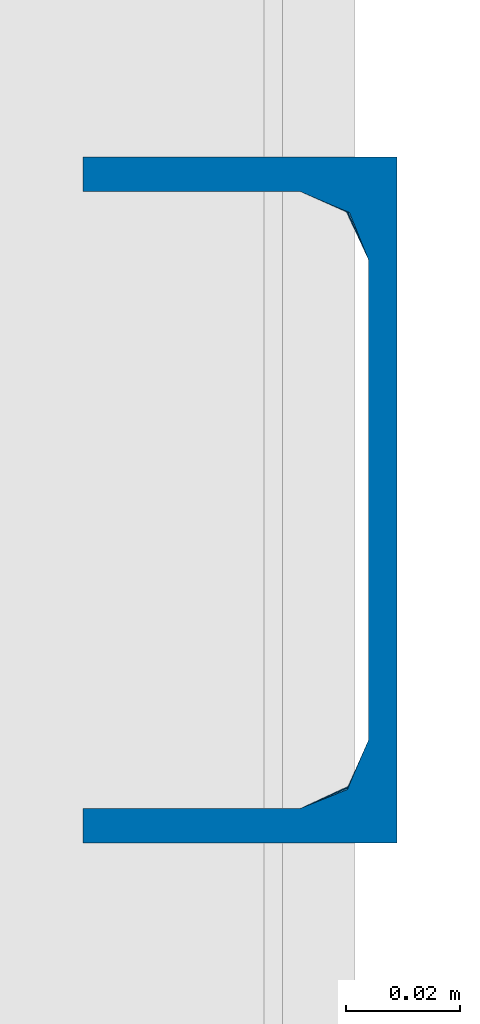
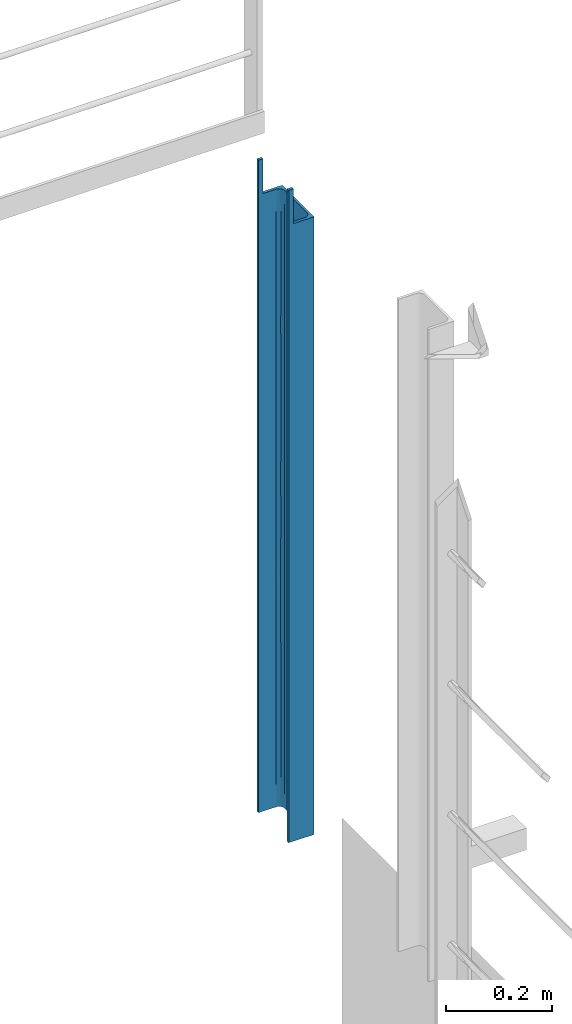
# One storey, part 6 of 10: 1 column.
"""IFC2X3 building model written with IfcOpenShell, lengths in metres."""

from ifc_helpers import new_model, entity, si_unit, converted_unit, derived_unit, direction, frame, origin, place, context, subcontext, project, spatial, faceted_brep, source, transform, mapped, material, type_object, type_shapes, element, save


model = new_model("IFC2X3")

# Units and contexts
model_context = context("Model", 3, precision=1e-05, world=origin(), true_north=direction((6.12303176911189e-17, 1.0)))
body_context = subcontext(model_context, "Body", "Model", "MODEL_VIEW")
ifc_project = project(units=[si_unit("LENGTHUNIT", "METRE"), si_unit("AREAUNIT", "SQUARE_METRE"), si_unit("VOLUMEUNIT", "CUBIC_METRE"), converted_unit("PLANEANGLEUNIT", "DEGREE", entity("IfcRatioMeasure", 0.0174532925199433), si_unit("PLANEANGLEUNIT", "RADIAN"), dimensions=[0, 0, 0, 0, 0, 0, 0]), si_unit("MASSUNIT", "GRAM", prefix="KILO"), derived_unit("MASSDENSITYUNIT", [(si_unit("MASSUNIT", "GRAM", prefix="KILO"), 1), (si_unit("LENGTHUNIT", "METRE"), -3)]), derived_unit("MOMENTOFINERTIAUNIT", [(si_unit("LENGTHUNIT", "METRE"), 4)]), si_unit("TIMEUNIT", "SECOND"), si_unit("FREQUENCYUNIT", "HERTZ"), si_unit("THERMODYNAMICTEMPERATUREUNIT", "DEGREE_CELSIUS"), derived_unit("THERMALTRANSMITTANCEUNIT", [(si_unit("MASSUNIT", "GRAM", prefix="KILO"), 1), (si_unit("THERMODYNAMICTEMPERATUREUNIT", "KELVIN"), -1), (si_unit("TIMEUNIT", "SECOND"), -3)]), derived_unit("VOLUMETRICFLOWRATEUNIT", [(si_unit("LENGTHUNIT", "METRE"), 3), (si_unit("TIMEUNIT", "SECOND"), -1)]), si_unit("ELECTRICCURRENTUNIT", "AMPERE"), si_unit("ELECTRICVOLTAGEUNIT", "VOLT"), si_unit("POWERUNIT", "WATT"), si_unit("FORCEUNIT", "NEWTON", prefix="KILO"), si_unit("ILLUMINANCEUNIT", "LUX"), si_unit("LUMINOUSFLUXUNIT", "LUMEN"), si_unit("LUMINOUSINTENSITYUNIT", "CANDELA"), derived_unit("USERDEFINED", [(si_unit("MASSUNIT", "GRAM", prefix="KILO"), -1), (si_unit("LENGTHUNIT", "METRE"), -2), (si_unit("TIMEUNIT", "SECOND"), 3), (si_unit("LUMINOUSFLUXUNIT", "LUMEN"), 1)]), derived_unit("LINEARVELOCITYUNIT", [(si_unit("LENGTHUNIT", "METRE"), 1), (si_unit("TIMEUNIT", "SECOND"), -1)]), si_unit("PRESSUREUNIT", "PASCAL"), derived_unit("USERDEFINED", [(si_unit("LENGTHUNIT", "METRE"), -2), (si_unit("MASSUNIT", "GRAM", prefix="KILO"), 1), (si_unit("TIMEUNIT", "SECOND"), -2)]), derived_unit("LINEARFORCEUNIT", [(si_unit("MASSUNIT", "GRAM", prefix="KILO"), 1), (si_unit("LENGTHUNIT", "METRE"), 1), (si_unit("TIMEUNIT", "SECOND"), -2), (si_unit("LENGTHUNIT", "METRE"), -1)]), derived_unit("PLANARFORCEUNIT", [(si_unit("MASSUNIT", "GRAM", prefix="KILO"), 1), (si_unit("LENGTHUNIT", "METRE"), 1), (si_unit("TIMEUNIT", "SECOND"), -2), (si_unit("LENGTHUNIT", "METRE"), -2)])], contexts=[model_context])

# Site, building, storey
site_placement = place(None, origin())
site = spatial("IfcSite", under=ifc_project, at=site_placement, Name="Superficie", CompositionType="ELEMENT")
building_placement = place(site_placement, origin())
building = spatial("IfcBuilding", under=site, at=building_placement, Name="Telegestiones", CompositionType="ELEMENT")
storey_placement = place(building_placement, frame((0.0, 0.0, 13.23)))
storey = spatial("IfcBuildingStorey", under=building, at=storey_placement, Name="Nivel 3_SUP", CompositionType="ELEMENT", Elevation=13.23)

# Column
ifc_material = material(Name="Metal - Acero - 345 MPa")
column_type = type_object("IfcColumnType", Name="UPE - Canales de ala paralela - Pilar:UPE 120", PredefinedType="COLUMN", material=ifc_material)
shared_shape = source(origin(), body_context, "Body", "Brep", [
    faceted_brep([(0.0550000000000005, 0.120000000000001, 0.0), (0.0550000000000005, 0.0, 0.0), (0.0, 0.0, 0.0), (0.0, 0.00599999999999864, 0.0), (0.038, 0.00599999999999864, 0.0), (0.0411058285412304, 0.0064088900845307, 0.0), (0.0440000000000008, 0.00760769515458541, 0.0), (0.0464852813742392, 0.00951471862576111, 0.0), (0.0483923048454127, 0.0119999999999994, 0.0), (0.0495911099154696, 0.0148941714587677, 0.0), (0.0500000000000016, 0.0179999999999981, 0.0), (0.0500000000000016, 0.101999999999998, 0.0), (0.0495911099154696, 0.105105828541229, 0.0), (0.0483923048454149, 0.107999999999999, 0.0), (0.0464852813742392, 0.110485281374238, 0.0), (0.0440000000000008, 0.112392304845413, 0.0), (0.0411058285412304, 0.113591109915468, 0.0), (0.038, 0.114, 0.0), (0.0, 0.114, 0.0), (0.0, 0.120000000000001, 0.0), (0.0, 0.0, 1.5), (0.0, 0.00599999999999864, 1.5), (0.0, 0.113999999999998, 1.5), (0.0, 0.119999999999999, 1.5), (0.00999999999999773, 0.0, 1.5), (0.00999999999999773, 0.00599999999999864, 1.5), (0.00999999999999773, 0.113999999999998, 1.5), (0.00999999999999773, 0.119999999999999, 1.5), (0.00999999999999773, 0.0, 1.41999999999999), (0.0550000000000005, 0.0, 1.41999999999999), (0.00999999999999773, 0.00599999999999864, 1.41999999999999), (0.038, 0.00599999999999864, 1.41999999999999), (0.038, 0.00599999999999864, 1.35952190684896), (0.038, 0.00599999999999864, 1.29904381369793), (0.038, 0.00599999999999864, 1.24250000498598), (0.038, 0.00599999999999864, 1.153749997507), (0.038, 0.00599999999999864, 1.06499999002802), (0.038, 0.00599999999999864, 0.976249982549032), (0.038, 0.00599999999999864, 0.887499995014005), (0.038, 0.00599999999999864, 0.798750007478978), (0.038, 0.00599999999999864, 0.709999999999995), (0.038, 0.00599999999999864, 0.621249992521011), (0.038, 0.00599999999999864, 0.532500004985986), (0.038, 0.00599999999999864, 0.443750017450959), (0.038, 0.00599999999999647, 0.355000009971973), (0.038, 0.00599999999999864, 0.241912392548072), (0.038, 0.00599999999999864, 0.181434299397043), (0.038, 0.0060000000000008, 0.120956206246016), (0.0379999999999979, 0.00599999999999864, 0.0604781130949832), (0.0499999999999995, 0.0179999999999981, 1.35952189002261), (0.0495911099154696, 0.0148941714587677, 1.41999999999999), (0.0499999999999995, 0.0179999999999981, 1.41999999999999), (0.0499999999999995, 0.0179999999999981, 0.0604781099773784), (0.0499999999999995, 0.0179999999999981, 0.452350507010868), (0.0467897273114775, 0.00983050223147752, 0.399375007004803), (0.0467877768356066, 0.00982840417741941, 0.464473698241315), (0.0464852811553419, 0.00951471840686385, 0.0907171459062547), (0.0464852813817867, 0.00951471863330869, 1.35258097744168), (0.0464852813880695, 0.00951471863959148, 1.27077190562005), (0.0462812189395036, 0.00931544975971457, 0.32983495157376), (0.0464852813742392, 0.00951471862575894, 1.41999999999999), (0.0440000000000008, 0.00760769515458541, 1.41999999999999), (0.0499999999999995, 0.0179999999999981, 0.339262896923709), (0.0466029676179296, 0.00963406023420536, 0.244207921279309), (0.0470720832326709, 0.0101452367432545, 0.754375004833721), (0.0462857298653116, 0.00931975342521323, 0.685213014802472), (0.0462547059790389, 0.00929024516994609, 1.17853746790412), (0.0467049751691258, 0.00974025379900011, 0.60354571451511), (0.0471640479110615, 0.0102527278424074, 0.529447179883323), (0.0411058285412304, 0.00640889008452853, 1.41999999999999), (0.0463911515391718, 0.00942162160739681, 0.91443329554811), (0.0499999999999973, 0.0179999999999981, 0.875697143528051), (0.0460330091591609, 0.00908536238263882, 0.843125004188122), (0.0462945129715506, 0.00932814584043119, 0.175985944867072), (0.0499999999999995, 0.0179999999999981, 0.120956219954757), (0.0462837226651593, 0.00931783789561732, 1.02689238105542), (0.0499999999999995, 0.0179999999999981, 0.694262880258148), (0.0483923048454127, 0.0119999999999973, 1.41999999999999), (0.0499999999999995, 0.0179999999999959, 1.23856567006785), (0.0500000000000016, 0.0179999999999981, 1.17808762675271), (0.0499999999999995, 0.0179999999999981, 1.11760958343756), (0.0499999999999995, 0.0179999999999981, 1.29904378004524), (0.0499999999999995, 0.0179999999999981, 0.226175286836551), (0.0499999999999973, 0.0179999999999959, 0.996653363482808), (0.0467622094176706, 0.00980099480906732, 1.10937500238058), (0.0499999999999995, 0.0179999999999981, 0.754740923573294), (0.0500000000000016, 0.0180000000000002, 0.815219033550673), (0.0499999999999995, 0.0180000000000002, 0.93617525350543), (0.0499999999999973, 0.0179999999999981, 1.05713147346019), (0.0499999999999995, 0.0179999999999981, 0.633784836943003), (0.0499999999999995, 0.0179999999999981, 0.573306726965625), (0.0499999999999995, 0.0179999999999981, 0.512828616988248), (0.0499999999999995, 0.101999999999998, 1.41999999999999), (0.0499999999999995, 0.101999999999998, 1.35952191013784), (0.0499999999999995, 0.101999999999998, 1.2990438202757), (0.0499999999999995, 0.101999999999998, 1.24250000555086), (0.0499999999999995, 0.101999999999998, 1.15375000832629), (0.0499999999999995, 0.101999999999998, 1.06500001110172), (0.0499999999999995, 0.101999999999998, 0.976250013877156), (0.0499999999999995, 0.101999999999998, 0.887500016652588), (0.0499999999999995, 0.101999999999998, 0.798749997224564), (0.0499999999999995, 0.101999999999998, 0.709999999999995), (0.0499999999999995, 0.101999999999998, 0.621250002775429), (0.0499999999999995, 0.101999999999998, 0.532499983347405), (0.0499999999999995, 0.101999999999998, 0.443749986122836), (0.0499999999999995, 0.101999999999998, 0.354999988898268), (0.0500000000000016, 0.101999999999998, 0.241912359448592), (0.0500000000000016, 0.101999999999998, 0.181434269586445), (0.0499999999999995, 0.101999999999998, 0.120956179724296), (0.0499999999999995, 0.101999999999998, 0.0604780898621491), (0.0461694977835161, 0.110789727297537, 0.399375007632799), (0.0466845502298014, 0.110281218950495, 0.32983495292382), (0.0464852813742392, 0.110485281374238, 1.41999999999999), (0.0464852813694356, 0.110485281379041, 1.35258097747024), (0.0483923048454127, 0.107999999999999, 1.41999999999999), (0.0464852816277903, 0.110485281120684, 0.0907171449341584), (0.0464852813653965, 0.11048528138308, 1.27077190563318), (0.038, 0.113999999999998, 1.23856573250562), (0.0467097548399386, 0.110254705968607, 1.17853746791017), (0.0380000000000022, 0.114, 1.3595219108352), (0.0411058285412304, 0.113591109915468, 1.41999999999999), (0.038, 0.113999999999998, 1.41999999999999), (0.038, 0.113999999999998, 0.0604780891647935), (0.038, 0.113999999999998, 0.452350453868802), (0.0461715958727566, 0.110787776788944, 0.464473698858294), (0.038, 0.113999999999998, 0.339262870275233), (0.0463659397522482, 0.110602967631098, 0.244207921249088), (0.0462597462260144, 0.110704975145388, 0.603545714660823), (0.0457472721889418, 0.111164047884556, 0.529447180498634), (0.0469146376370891, 0.110033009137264, 0.8431250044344), (0.0465783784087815, 0.110391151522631, 0.914433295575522), (0.0458547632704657, 0.111072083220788, 0.754375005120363), (0.0466802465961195, 0.110285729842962, 0.685213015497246), (0.0495911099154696, 0.105105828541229, 1.41999999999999), (0.038, 0.113999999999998, 0.875697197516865), (0.0466718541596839, 0.110294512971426, 0.175985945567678), (0.038, 0.113999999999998, 0.694262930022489), (0.038, 0.113999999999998, 0.120956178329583), (0.0440000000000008, 0.112392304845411, 1.41999999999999), (0.0466821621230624, 0.110283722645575, 1.02689238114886), (0.038, 0.113999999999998, 1.17808764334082), (0.0380000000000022, 0.113999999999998, 1.11760955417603), (0.038, 0.113999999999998, 1.29904382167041), (0.038, 0.113999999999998, 0.22617516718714), (0.038, 0.114, 0.996653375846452), (0.0461990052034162, 0.110762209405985, 1.1093750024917), (0.038, 0.113999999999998, 0.75474101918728), (0.038, 0.114, 0.815219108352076), (0.038, 0.113999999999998, 0.936175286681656), (0.0379999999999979, 0.113999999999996, 1.05713146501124), (0.038, 0.113999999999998, 0.633784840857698), (0.038, 0.113999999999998, 0.573306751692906), (0.038, 0.113999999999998, 0.512828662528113), (0.00999999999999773, 0.113999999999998, 1.41999999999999), (0.00999999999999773, 0.119999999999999, 1.41999999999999), (0.0550000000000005, 0.119999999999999, 1.41999999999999)], [[[0, 1, 2, 3, 4, 5, 6, 7, 8, 9, 10, 11, 12, 13, 14, 15, 16, 17, 18, 19]], [[20, 21, 3, 2]], [[22, 23, 19, 18]], [[20, 24, 25, 21]], [[22, 26, 27, 23]], [[28, 24, 20, 2, 1, 29]], [[30, 31, 32, 33, 34, 35, 36, 37, 38, 39, 40, 41, 42, 43, 44, 45, 46, 47, 48, 4, 3, 21, 25]], [[49, 50, 51]], [[52, 10, 9]], [[53, 54, 55]], [[7, 56, 8]], [[33, 32, 57, 58, 34]], [[44, 54, 59]], [[48, 56, 6]], [[60, 57, 61]], [[62, 63, 59]], [[40, 64, 65]], [[34, 66, 35]], [[5, 48, 6]], [[9, 8, 52]], [[42, 67, 68]], [[69, 61, 32]], [[8, 56, 52]], [[70, 71, 72]], [[47, 73, 56]], [[72, 38, 70]], [[4, 48, 5]], [[32, 31, 69]], [[56, 73, 74]], [[59, 54, 62]], [[75, 37, 36]], [[65, 64, 76]], [[60, 77, 57]], [[32, 61, 57]], [[6, 56, 7]], [[58, 78, 66]], [[52, 56, 74]], [[50, 49, 77]], [[49, 57, 77]], [[79, 80, 66, 78]], [[49, 81, 78, 58, 57]], [[82, 74, 73]], [[47, 56, 48]], [[82, 73, 63]], [[73, 46, 63]], [[70, 75, 83]], [[84, 36, 35]], [[84, 66, 80]], [[39, 64, 40]], [[38, 72, 39]], [[85, 76, 64, 86]], [[86, 64, 72]], [[39, 72, 64]], [[70, 83, 87, 71]], [[83, 75, 88]], [[75, 84, 88]], [[70, 38, 37]], [[75, 36, 84]], [[37, 75, 70]], [[84, 35, 66]], [[58, 66, 34]], [[71, 86, 72]], [[89, 67, 65]], [[67, 90, 68]], [[41, 40, 65]], [[41, 65, 67]], [[90, 67, 89]], [[65, 76, 89]], [[41, 67, 42]], [[43, 54, 44]], [[68, 91, 55]], [[55, 43, 42]], [[91, 53, 55]], [[54, 53, 62]], [[59, 45, 44]], [[80, 88, 84]], [[82, 63, 62]], [[68, 90, 91]], [[63, 45, 59]], [[45, 63, 46]], [[73, 47, 46]], [[68, 55, 42]], [[55, 54, 43]], [[51, 92, 93, 94, 95, 96, 97, 98, 99, 100, 101, 102, 103, 104, 105, 106, 107, 108, 109, 11, 10, 52, 74, 82, 62, 53, 91, 90, 89, 76, 85, 86, 71, 87, 83, 88, 80, 79, 78, 81, 49]], [[105, 110, 111]], [[112, 113, 114]], [[13, 115, 14]], [[116, 117, 118]], [[94, 93, 113, 116, 95]], [[119, 120, 121]], [[122, 17, 16]], [[109, 115, 13]], [[123, 110, 124]], [[125, 126, 111]], [[103, 127, 128]], [[95, 118, 96]], [[129, 99, 130]], [[111, 110, 125]], [[101, 131, 132]], [[133, 114, 93]], [[15, 115, 122]], [[130, 134, 129]], [[108, 135, 115]], [[132, 131, 136]], [[11, 109, 12]], [[93, 92, 133]], [[115, 135, 137]], [[16, 15, 122]], [[14, 115, 15]], [[138, 113, 112]], [[93, 114, 113]], [[12, 109, 13]], [[139, 98, 97]], [[122, 115, 137]], [[120, 119, 138]], [[119, 113, 138]], [[140, 141, 118, 117]], [[119, 142, 117, 116, 113]], [[143, 137, 135]], [[108, 115, 109]], [[143, 135, 126]], [[135, 107, 126]], [[130, 139, 144]], [[145, 97, 96]], [[145, 118, 141]], [[100, 131, 101]], [[99, 129, 100]], [[146, 136, 131, 147]], [[147, 131, 129]], [[100, 129, 131]], [[130, 144, 148, 134]], [[144, 139, 149]], [[139, 145, 149]], [[130, 99, 98]], [[139, 97, 145]], [[98, 139, 130]], [[145, 96, 118]], [[116, 118, 95]], [[134, 147, 129]], [[150, 127, 132]], [[127, 151, 128]], [[102, 101, 132]], [[102, 132, 127]], [[151, 127, 150]], [[132, 136, 150]], [[102, 127, 103]], [[104, 110, 105]], [[128, 152, 124]], [[124, 104, 103]], [[152, 123, 124]], [[110, 123, 125]], [[111, 106, 105]], [[141, 149, 145]], [[143, 126, 125]], [[128, 151, 152]], [[126, 106, 111]], [[106, 126, 107]], [[135, 108, 107]], [[128, 124, 103]], [[124, 110, 104]], [[153, 26, 22, 18, 17, 122, 137, 143, 125, 123, 152, 151, 150, 136, 146, 147, 134, 148, 144, 149, 141, 140, 117, 142, 119, 121]], [[154, 155, 0, 19, 23, 27]], [[155, 29, 1, 0]], [[138, 112, 114, 133, 92, 51, 50, 77, 60, 61, 69, 31, 30, 28, 29, 155, 154, 153, 121, 120]], [[153, 154, 27, 26]], [[28, 30, 25, 24]]]),
])
type_shapes(column_type, [shared_shape])
column_placement = place(storey_placement, frame((14.9098126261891, 13.4431072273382, 3.13)))
element("IfcColumn", 1, at=column_placement, inside=storey, type_object=column_type, material=ifc_material, Name="UPE - Canales de ala paralela - Pilar:UPE 120", ObjectType="UPE - Canales de ala paralela - Pilar:UPE 120", context=body_context, shape_type="MappedRepresentation", body=[
    mapped(shared_shape, transform((0.0, 0.0, 0.0), scale=1.0)),
])

save(model, "model.ifc")
